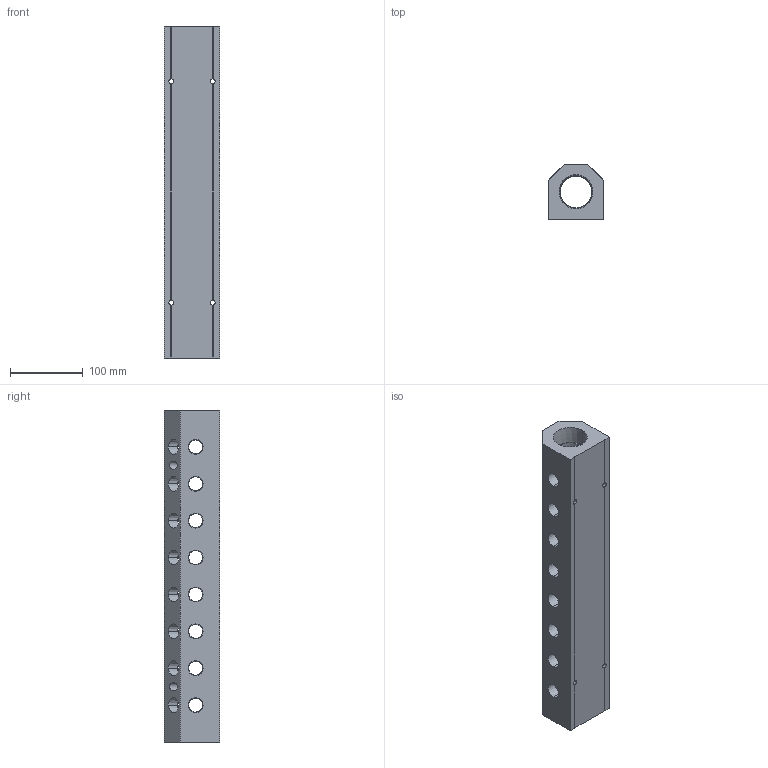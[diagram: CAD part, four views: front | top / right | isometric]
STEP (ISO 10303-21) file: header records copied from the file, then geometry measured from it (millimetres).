
FILE_DESCRIPTION (( 'STEP AP214' ), '1' );
FILE_NAME ('ALM8ABCDE-N8N24-457R.step', '2022-02-07T09:23:33', ( '' ), ( '' ), 'SwSTEP 2.0', 'SolidWorks 2020', '' );
FILE_SCHEMA (( 'AUTOMOTIVE_DESIGN' ));
Length unit declared in the file: millimetre
Products named in the file (1): ALM8ABCDE-N8N24-457R
Bounding box: 76.2 x 76.2 x 457 mm (x, y, z)
Volume: 1491735.8 mm3; surface area: 222404 mm2
Topology: 1 solids, 1 shells, 433 faces, 1285 edges, 854 vertices
Faces by surface type: plane 244, cone 84, bspline 79, cylinder 26
Entity records: 27139 total; most frequent: CARTESIAN_POINT 12132, ORIENTED_EDGE 2570, DIRECTION 1729, EDGE_CURVE 1285, VERTEX_POINT 854, VECTOR 787, LINE 787, EDGE_LOOP 523
